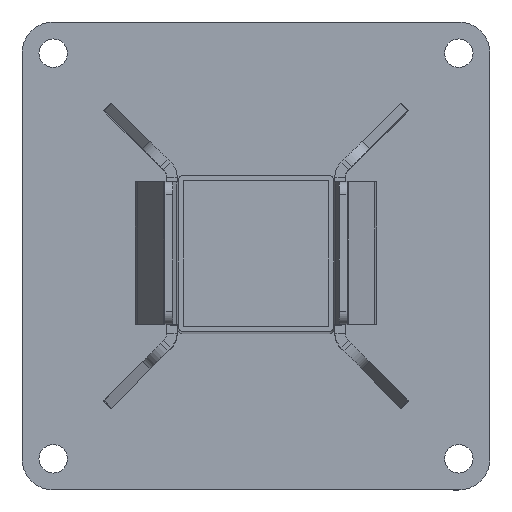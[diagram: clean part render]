
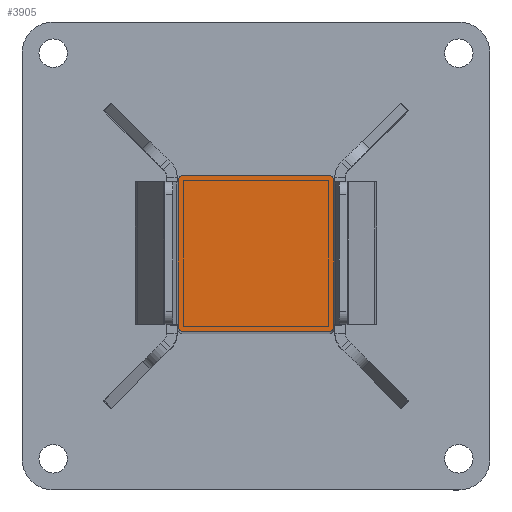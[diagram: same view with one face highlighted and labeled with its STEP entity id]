
A CAD part, top view. The second image highlights one B-rep face of the part: STEP entity #3905.
In plain terms, the highlighted planar face has unit normal (0, 0, 1).
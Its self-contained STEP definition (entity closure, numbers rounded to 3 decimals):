
#403=FACE_OUTER_BOUND('',#645,.T.);
#645=EDGE_LOOP('',(#2896,#2897,#2898,#2899,#2900,#2901,#2902,#2903));
#953=LINE('',#6202,#1304);
#956=LINE('',#6208,#1307);
#957=LINE('',#6212,#1308);
#958=LINE('',#6216,#1309);
#1304=VECTOR('',#5041,10.);
#1307=VECTOR('',#5046,10.);
#1308=VECTOR('',#5049,10.);
#1309=VECTOR('',#5052,10.);
#1616=CIRCLE('',#4401,2.);
#1618=CIRCLE('',#4405,2.);
#1619=CIRCLE('',#4406,2.);
#1620=CIRCLE('',#4407,2.);
#1807=VERTEX_POINT('',#6192);
#1808=VERTEX_POINT('',#6193);
#1811=VERTEX_POINT('',#6201);
#1813=VERTEX_POINT('',#6207);
#1814=VERTEX_POINT('',#6209);
#1815=VERTEX_POINT('',#6211);
#1816=VERTEX_POINT('',#6213);
#1817=VERTEX_POINT('',#6215);
#2209=EDGE_CURVE('',#1807,#1808,#1616,.T.);
#2213=EDGE_CURVE('',#1808,#1811,#953,.T.);
#2216=EDGE_CURVE('',#1813,#1807,#956,.T.);
#2217=EDGE_CURVE('',#1814,#1813,#1618,.T.);
#2218=EDGE_CURVE('',#1815,#1814,#957,.T.);
#2219=EDGE_CURVE('',#1816,#1815,#1619,.T.);
#2220=EDGE_CURVE('',#1817,#1816,#958,.T.);
#2221=EDGE_CURVE('',#1811,#1817,#1620,.T.);
#2896=ORIENTED_EDGE('',*,*,#2209,.F.);
#2897=ORIENTED_EDGE('',*,*,#2216,.F.);
#2898=ORIENTED_EDGE('',*,*,#2217,.F.);
#2899=ORIENTED_EDGE('',*,*,#2218,.F.);
#2900=ORIENTED_EDGE('',*,*,#2219,.F.);
#2901=ORIENTED_EDGE('',*,*,#2220,.F.);
#2902=ORIENTED_EDGE('',*,*,#2221,.F.);
#2903=ORIENTED_EDGE('',*,*,#2213,.F.);
#3738=PLANE('',#4404);
#3905=ADVANCED_FACE('',(#403),#3738,.T.);
#4401=AXIS2_PLACEMENT_3D('',#6194,#5033,#5034);
#4404=AXIS2_PLACEMENT_3D('',#6206,#5044,#5045);
#4405=AXIS2_PLACEMENT_3D('',#6210,#5047,#5048);
#4406=AXIS2_PLACEMENT_3D('',#6214,#5050,#5051);
#4407=AXIS2_PLACEMENT_3D('',#6217,#5053,#5054);
#5033=DIRECTION('center_axis',(0.,0.,-1.));
#5034=DIRECTION('ref_axis',(0.707,-0.707,0.));
#5041=DIRECTION('',(-1.,0.,0.));
#5044=DIRECTION('center_axis',(0.,0.,1.));
#5045=DIRECTION('ref_axis',(1.,0.,0.));
#5046=DIRECTION('',(0.,-1.,0.));
#5047=DIRECTION('center_axis',(0.,0.,-1.));
#5048=DIRECTION('ref_axis',(0.707,0.707,0.));
#5049=DIRECTION('',(1.,0.,0.));
#5050=DIRECTION('center_axis',(0.,0.,-1.));
#5051=DIRECTION('ref_axis',(-0.707,0.707,0.));
#5052=DIRECTION('',(0.,1.,0.));
#5053=DIRECTION('center_axis',(0.,0.,-1.));
#5054=DIRECTION('ref_axis',(-0.707,-0.707,0.));
#6192=CARTESIAN_POINT('',(60.,2.,503.77));
#6193=CARTESIAN_POINT('',(58.,0.,503.77));
#6194=CARTESIAN_POINT('Origin',(58.,2.,503.77));
#6201=CARTESIAN_POINT('',(2.,0.,503.77));
#6202=CARTESIAN_POINT('',(0.,0.,503.77));
#6206=CARTESIAN_POINT('Origin',(30.,30.,503.77));
#6207=CARTESIAN_POINT('',(60.,58.,503.77));
#6208=CARTESIAN_POINT('',(60.,0.,503.77));
#6209=CARTESIAN_POINT('',(58.,60.,503.77));
#6210=CARTESIAN_POINT('Origin',(58.,58.,503.77));
#6211=CARTESIAN_POINT('',(2.,60.,503.77));
#6212=CARTESIAN_POINT('',(60.,60.,503.77));
#6213=CARTESIAN_POINT('',(0.,58.,503.77));
#6214=CARTESIAN_POINT('Origin',(2.,58.,503.77));
#6215=CARTESIAN_POINT('',(0.,2.,503.77));
#6216=CARTESIAN_POINT('',(0.,60.,503.77));
#6217=CARTESIAN_POINT('Origin',(2.,2.,503.77));
